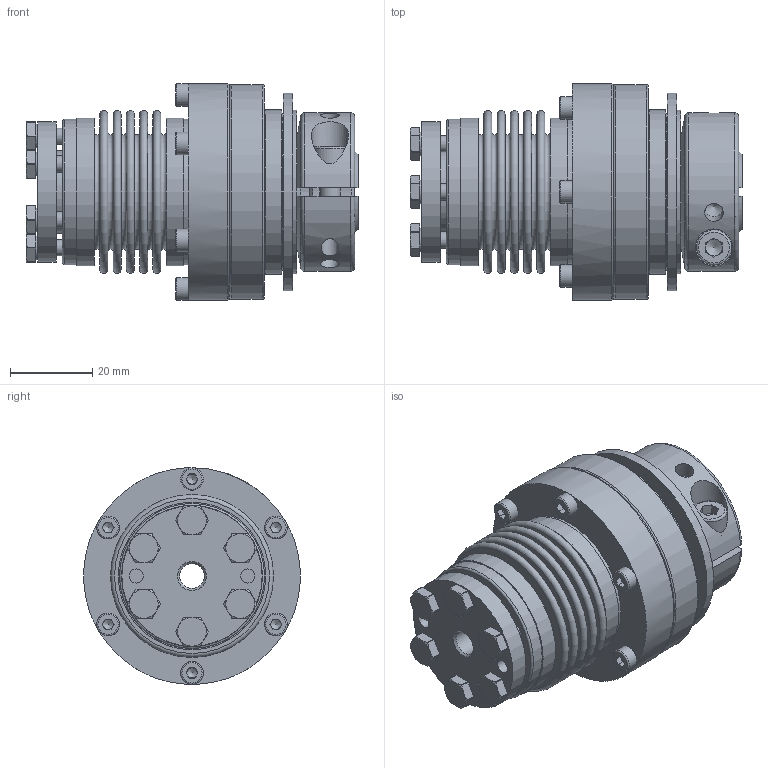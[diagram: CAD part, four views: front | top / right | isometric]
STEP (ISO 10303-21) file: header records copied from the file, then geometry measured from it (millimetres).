
FILE_DESCRIPTION( ( 'Unknown' ), '1' );
FILE_NAME( 'F:/JAKOB-STEP+IGES-Dateien/STEP-Dateien/SKB-KS/SKB-KS 12.stp', 'Unknown', ( 'Unknown' ), ( 'Unknown' ), 'PSStep 10.1', 'Unknown', ' ' );
FILE_SCHEMA( ( 'AUTOMOTIVE_DESIGN { 1 0 10303 214 1 1 1 1 }' ) );
Length unit declared in the file: millimetre
Products named in the file (1): kt102870-oa9
Bounding box: 80.5 x 52.5 x 52.5 mm (x, y, z)
Volume: 75800.6 mm3; surface area: 50511.6 mm2
Topology: 1 solids, 9 shells, 610 faces, 1527 edges, 975 vertices
Faces by surface type: plane 281, cylinder 159, torus 82, cone 42, bspline 35, sphere 10, revolution 1
Full cylindrical faces by diameter (mm): 1.5 x2, 2.5 x6, 3 x6, 3.3 x1, 3.4 x14, 4 x6, 4.2 x1, 4.3 x6, 4.5 x3, 5 x1, 5.5 x7, 5.9 x6, 6 x1, 8 x1, 8.5 x1, 9 x1, 14 x1, 19 x1, 19.9 x1, 20 x3, 24 x1, 25 x2, 25.4 x1, 25.5 x1, 27.2 x2, 28 x1, 34 x1, 35.1 x2, 35.2 x2, 35.8 x2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
Entity records: 23323 total; most frequent: CARTESIAN_POINT 5062, DIRECTION 2819, ORIENTED_EDGE 2500, EDGE_CURVE 1250, AXIS2_PLACEMENT_3D 1194, EDGE_LOOP 903, VERTEX_POINT 888, FACE_OUTER_BOUND 744
